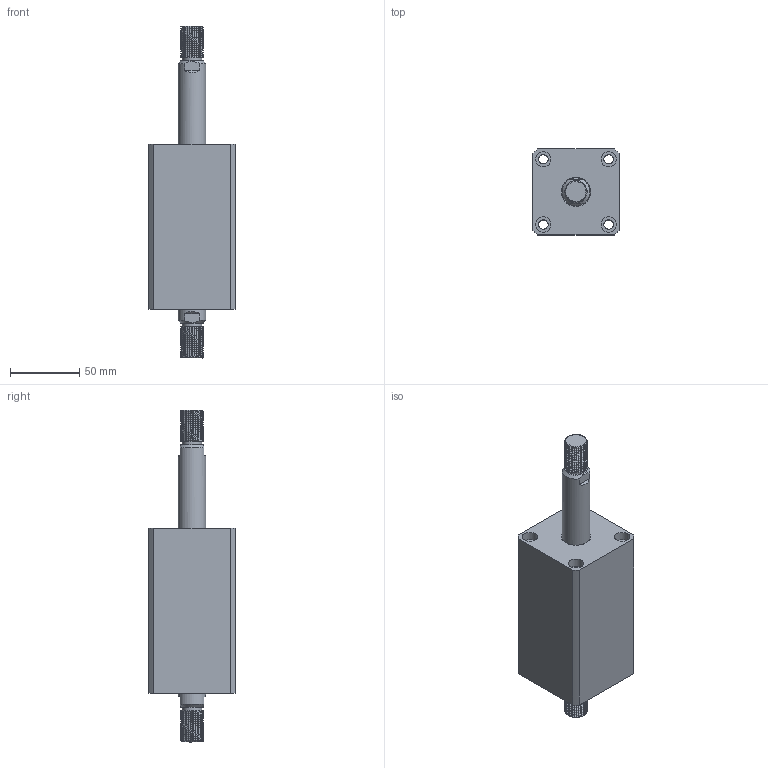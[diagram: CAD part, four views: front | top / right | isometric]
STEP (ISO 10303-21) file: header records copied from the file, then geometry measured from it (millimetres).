
FILE_DESCRIPTION(/* description */ (''),/* implementation_level */ '2;1');
FILE_NAME(/* name */ 'CHTB-SW32-50W.stp',/* time_stamp */ '2022-04-29T17:19:02+08:00',/* author */ (''),/* organization */ (''),/* preprocessor_version */ 'ST-DEVELOPER v16.7',/* originating_system */ 'SIEMENS PLM Software NX 12.0',/* authorisation */ '');
FILE_SCHEMA (('AUTOMOTIVE_DESIGN { 1 0 10303 214 3 1 1 1 }'));
Length unit declared in the file: millimetre
Products named in the file (1): CHTB-SW32-50W
Bounding box: 62 x 62 x 239 mm (x, y, z)
Volume: 432798.4 mm3; surface area: 87037.6 mm2
Topology: 3 solids, 3 shells, 456 faces, 1333 edges, 935 vertices
Faces by surface type: plane 279, extrusion 82, cylinder 54, bspline 17, cone 12, torus 12
Full cylindrical faces by diameter (mm): 3 x2, 4 x2, 6.8 x4, 10.7 x2, 11 x8, 14 x2, 20 x4, 24.5 x1, 26 x2, 28 x1, 32 x5, 38 x8, 46 x1
Entity records: 26397 total; most frequent: CARTESIAN_POINT 13231, ORIENTED_EDGE 2500, DIRECTION 1753, EDGE_CURVE 1250, VERTEX_POINT 919, VECTOR 829, LINE 747, EDGE_LOOP 573
